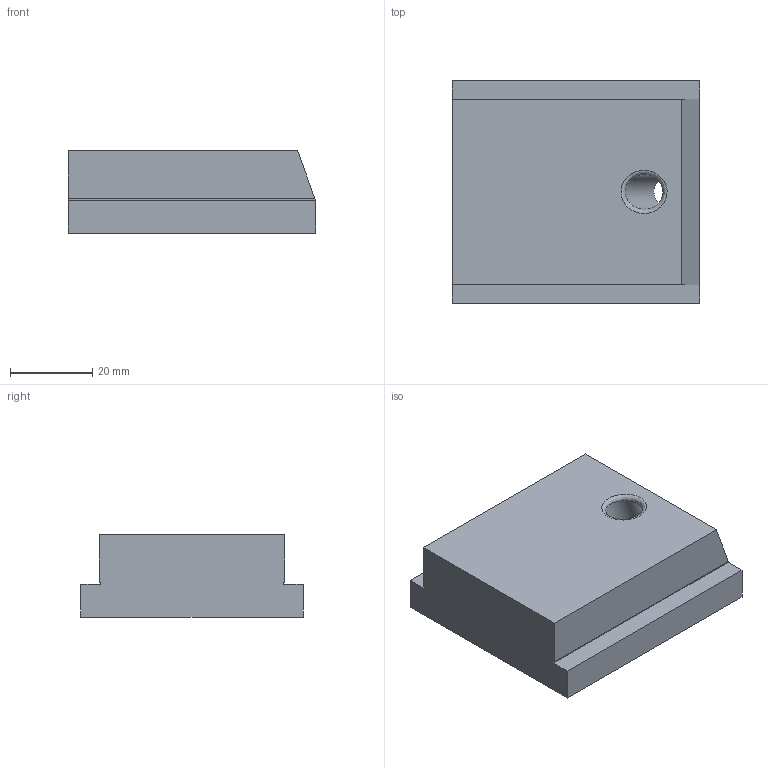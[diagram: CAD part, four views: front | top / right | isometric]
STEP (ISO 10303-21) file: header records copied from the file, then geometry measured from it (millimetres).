
FILE_DESCRIPTION (( 'STEP AP214' ), '1' );
FILE_NAME ('Schieber_-_H20 B45 L60.step', '2024-01-15T11:27:37', ( '' ), ( '' ), 'SwSTEP 2.0', 'SolidWorks 2020', '' );
FILE_SCHEMA (( 'AUTOMOTIVE_DESIGN' ));
Length unit declared in the file: millimetre
Products named in the file (1): Schieber_-_H20 B45 L60
Bounding box: 60 x 54 x 20 mm (x, y, z)
Volume: 55907.5 mm3; surface area: 11114.4 mm2
Topology: 1 solids, 1 shells, 209 faces, 555 edges, 369 vertices
Faces by surface type: plane 115, bspline 93, cylinder 1
Full cylindrical faces by diameter (mm): 8.5 x1
Entity records: 11391 total; most frequent: CARTESIAN_POINT 6807, ORIENTED_EDGE 1106, DIRECTION 600, EDGE_CURVE 553, VERTEX_POINT 369, LINE 366, VECTOR 366, EDGE_LOOP 234
